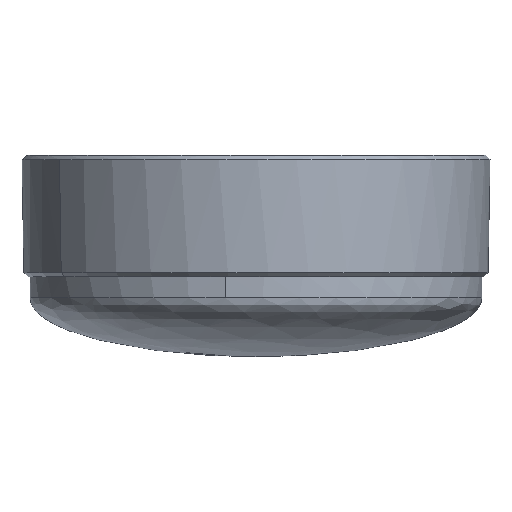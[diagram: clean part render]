
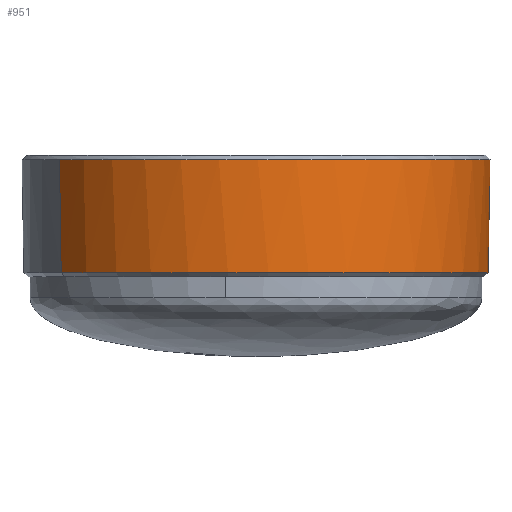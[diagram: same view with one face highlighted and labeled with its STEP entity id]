
A CAD part, front view. The second image highlights one B-rep face of the part: STEP entity #951.
In plain terms, the highlighted free-form (B-spline) face has degree [1, 3] with [2, 4] control points.
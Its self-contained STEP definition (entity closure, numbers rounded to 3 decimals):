
#915 = ORIENTED_EDGE ( 'NONE', *, *, #926, .F. ) ;
#926 = EDGE_CURVE ( 'NONE', #927, #1009, #3608, .T. ) ;
#927 = VERTEX_POINT ( 'NONE', #3615 ) ;
#931 = ORIENTED_EDGE ( 'NONE', *, *, #1042, .T. ) ;
#932 = EDGE_LOOP ( 'NONE', ( #947, #949, #936, #931, #915 ) ) ;
#933 = EDGE_CURVE ( 'NONE', #944, #1043, #3598, .T. ) ;
#936 = ORIENTED_EDGE ( 'NONE', *, *, #933, .T. ) ;
#944 = VERTEX_POINT ( 'NONE', #3769 ) ;
#947 = ORIENTED_EDGE ( 'NONE', *, *, #1045, .F. ) ;
#949 = ORIENTED_EDGE ( 'NONE', *, *, #954, .T. ) ;
#951 = ADVANCED_FACE ( 'NONE', ( #3757 ), #3828, .T. ) ;
#954 = EDGE_CURVE ( 'NONE', #1038, #944, #3827, .T. ) ;
#1009 = VERTEX_POINT ( 'NONE', #3983 ) ;
#1038 = VERTEX_POINT ( 'NONE', #3988 ) ;
#1042 = EDGE_CURVE ( 'NONE', #1043, #1009, #4089, .T. ) ;
#1043 = VERTEX_POINT ( 'NONE', #4082 ) ;
#1045 = EDGE_CURVE ( 'NONE', #1038, #927, #4079, .T. ) ;
#3598 = CIRCLE ( 'NONE', #3607, 27.991 ) ;
#3599 = DIRECTION ( 'NONE',  ( 0.838, 0.545, 0. ) ) ;
#3600 = DIRECTION ( 'NONE',  ( 0., 0., -1. ) ) ;
#3601 = CARTESIAN_POINT ( 'NONE',  ( 23.495, 21.708, -222.735 ) ) ;
#3602 = AXIS2_PLACEMENT_3D ( 'NONE', #3601, #3600, #3599 ) ;
#3605 = DIRECTION ( 'NONE',  ( 0., 0., -1. ) ) ;
#3606 = CARTESIAN_POINT ( 'NONE',  ( 23.495, 21.708, -209.234 ) ) ;
#3607 = AXIS2_PLACEMENT_3D ( 'NONE', #3606, #3605, #3629 ) ;
#3608 = CIRCLE ( 'NONE', #3602, 27.756 ) ;
#3615 = CARTESIAN_POINT ( 'NONE',  ( 46.758, 36.849, -222.735 ) ) ;
#3629 = DIRECTION ( 'NONE',  ( -0.106, 0.994, 0. ) ) ;
#3757 = FACE_OUTER_BOUND ( 'NONE', #932, .T. ) ;
#3759 = CARTESIAN_POINT ( 'NONE',  ( 77.493, -9.943, -209.234 ) ) ;
#3760 = CARTESIAN_POINT ( 'NONE',  ( 30.572, -40.481, -209.234 ) ) ;
#3761 = CARTESIAN_POINT ( 'NONE',  ( 0.035, 6.44, -209.234 ) ) ;
#3769 = CARTESIAN_POINT ( 'NONE',  ( 51.33, 24.662, -209.234 ) ) ;
#3802 = CARTESIAN_POINT ( 'NONE',  ( 46.758, 36.849, -222.735 ) ) ;
#3803 = CARTESIAN_POINT ( 'NONE',  ( 77.038, -9.677, -222.735 ) ) ;
#3804 = CARTESIAN_POINT ( 'NONE',  ( 30.512, -39.957, -222.735 ) ) ;
#3805 = CARTESIAN_POINT ( 'NONE',  ( 0.232, 6.568, -222.735 ) ) ;
#3806 = CARTESIAN_POINT ( 'NONE',  ( 46.955, 36.977, -209.234 ) ) ;
#3827 = CIRCLE ( 'NONE', #3916, 27.991 ) ;
#3828 =( BOUNDED_SURFACE ( )  B_SPLINE_SURFACE ( 1, 3, ( 
 ( #3761, #3760, #3759, #3806 ),
 ( #3805, #3804, #3803, #3802 ) ),
 .UNSPECIFIED., .F., .F., .T. ) 
 B_SPLINE_SURFACE_WITH_KNOTS ( ( 2, 2 ),
 ( 4, 4 ),
 ( 0., 1. ),
 ( 0., 1. ),
 .UNSPECIFIED. ) 
 GEOMETRIC_REPRESENTATION_ITEM ( )  RATIONAL_B_SPLINE_SURFACE ( (
 ( 1., 0.333, 0.333, 1.),
 ( 1., 0.333, 0.333, 1.) ) ) 
 REPRESENTATION_ITEM ( '' )  SURFACE ( )  );
#3841 = CARTESIAN_POINT ( 'NONE',  ( 23.495, 21.708, -209.234 ) ) ;
#3864 = DIRECTION ( 'NONE',  ( -0.106, 0.994, 0. ) ) ;
#3865 = DIRECTION ( 'NONE',  ( 0., 0., -1. ) ) ;
#3916 = AXIS2_PLACEMENT_3D ( 'NONE', #3841, #3865, #3864 ) ;
#3983 = CARTESIAN_POINT ( 'NONE',  ( 0.232, 6.568, -222.735 ) ) ;
#3988 = CARTESIAN_POINT ( 'NONE',  ( 46.955, 36.977, -209.234 ) ) ;
#4075 = DIRECTION ( 'NONE',  ( -0.015, -0.01, -1. ) ) ;
#4076 = VECTOR ( 'NONE', #4075, 1000. ) ;
#4078 = CARTESIAN_POINT ( 'NONE',  ( 46.857, 36.913, -215.984 ) ) ;
#4079 = LINE ( 'NONE', #4078, #4076 ) ;
#4080 = DIRECTION ( 'NONE',  ( 0.015, 0.01, -1. ) ) ;
#4081 = VECTOR ( 'NONE', #4080, 1000. ) ;
#4082 = CARTESIAN_POINT ( 'NONE',  ( 0.035, 6.44, -209.234 ) ) ;
#4088 = CARTESIAN_POINT ( 'NONE',  ( 0.134, 6.504, -215.984 ) ) ;
#4089 = LINE ( 'NONE', #4088, #4081 ) ;
